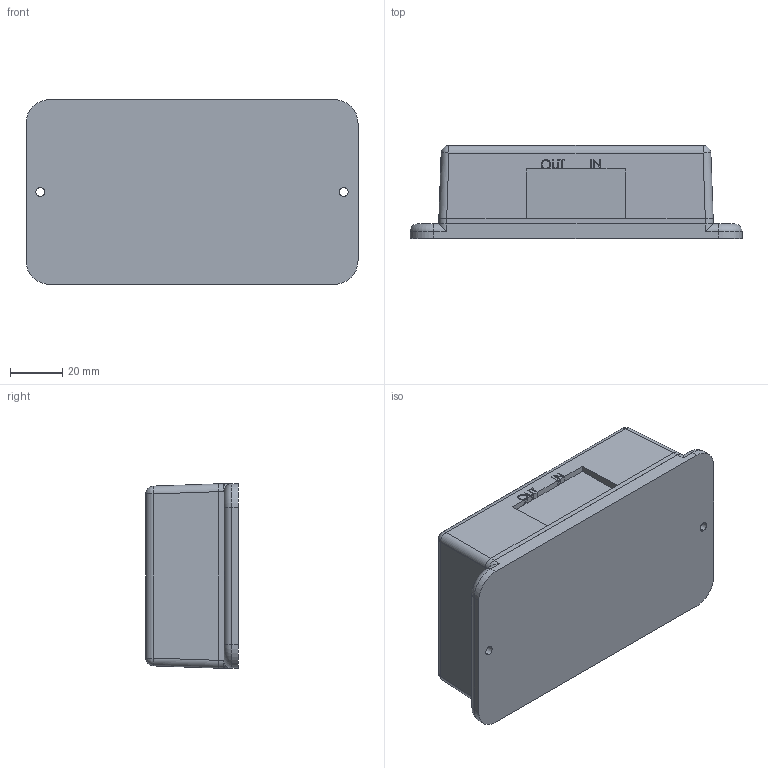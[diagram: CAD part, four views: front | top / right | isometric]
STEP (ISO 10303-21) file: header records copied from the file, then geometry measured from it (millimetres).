
FILE_DESCRIPTION (( 'STEP AP214' ), '1' );
FILE_NAME ('EB0X.STEP', '2017-08-10T15:51:11', ( '' ), ( '' ), 'SwSTEP 2.0', 'SolidWorks 2015', '' );
FILE_SCHEMA (( 'AUTOMOTIVE_DESIGN' ));
Length unit declared in the file: millimetre
Products named in the file (1): EB0X
Bounding box: 127 x 35.5 x 70.6 mm (x, y, z)
Volume: 260546.5 mm3; surface area: 30708.7 mm2
Topology: 1 solids, 1 shells, 292 faces, 801 edges, 518 vertices
Faces by surface type: plane 170, bspline 74, cylinder 36, sphere 8, torus 4
Entity records: 12946 total; most frequent: CARTESIAN_POINT 6039, ORIENTED_EDGE 1594, DIRECTION 1131, EDGE_CURVE 797, VECTOR 569, LINE 569, VERTEX_POINT 518, EDGE_LOOP 307
